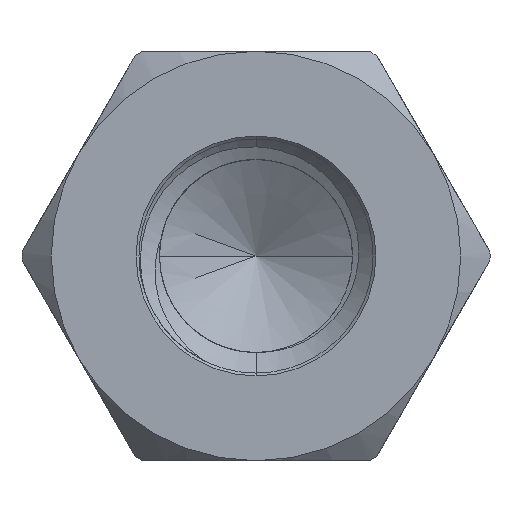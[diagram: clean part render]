
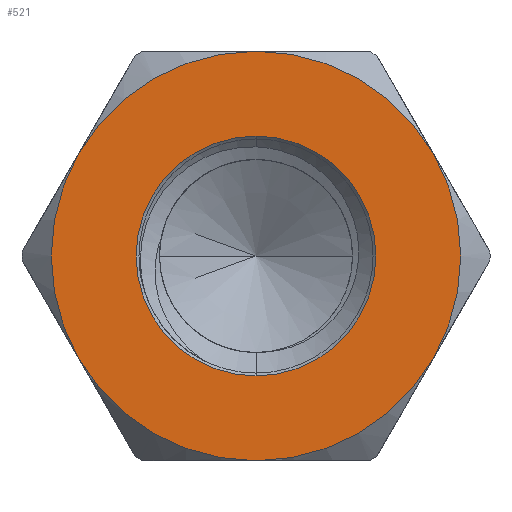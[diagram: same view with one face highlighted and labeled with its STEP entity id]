
A CAD part, front view. The second image highlights one B-rep face of the part: STEP entity #521.
In plain terms, the highlighted planar face has unit normal (0, -1, 0).
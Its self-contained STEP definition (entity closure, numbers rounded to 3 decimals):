
#111 = AXIS2_PLACEMENT_3D ( 'NONE', #9389, #473, #6172 ) ;
#473 = DIRECTION ( 'NONE',  ( 0., 1., 0. ) ) ;
#521 = ADVANCED_FACE ( 'NONE', ( #1487, #3065 ), #2100, .F. ) ;
#582 = CIRCLE ( 'NONE', #9037, 3.5 ) ;
#659 = AXIS2_PLACEMENT_3D ( 'NONE', #8401, #10103, #3592 ) ;
#803 = DIRECTION ( 'NONE',  ( 0., -1., 0. ) ) ;
#828 = EDGE_CURVE ( 'NONE', #10234, #7084, #6443, .T. ) ;
#890 = CARTESIAN_POINT ( 'NONE',  ( -3.031, 0., 1.75 ) ) ;
#1245 = ORIENTED_EDGE ( 'NONE', *, *, #7754, .T. ) ;
#1290 = EDGE_CURVE ( 'NONE', #7314, #9161, #582, .T. ) ;
#1358 = AXIS2_PLACEMENT_3D ( 'NONE', #10466, #5641, #4888 ) ;
#1461 = CIRCLE ( 'NONE', #3477, 3.5 ) ;
#1487 = FACE_BOUND ( 'NONE', #8051, .T. ) ;
#1554 = CIRCLE ( 'NONE', #659, 3.5 ) ;
#1584 = DIRECTION ( 'NONE',  ( 0., -1., 0. ) ) ;
#1656 = CARTESIAN_POINT ( 'NONE',  ( 0., 0., 0. ) ) ;
#1892 = ORIENTED_EDGE ( 'NONE', *, *, #6137, .F. ) ;
#2100 = PLANE ( 'NONE',  #111 ) ;
#2200 = DIRECTION ( 'NONE',  ( 0., 0., -1. ) ) ;
#2278 = AXIS2_PLACEMENT_3D ( 'NONE', #5630, #1584, #3181 ) ;
#2305 = DIRECTION ( 'NONE',  ( 0., -1., 0. ) ) ;
#2463 = CARTESIAN_POINT ( 'NONE',  ( 0., 0., 0. ) ) ;
#2777 = ORIENTED_EDGE ( 'NONE', *, *, #828, .T. ) ;
#2816 = CARTESIAN_POINT ( 'NONE',  ( 0., 0., 2.05 ) ) ;
#3065 = FACE_OUTER_BOUND ( 'NONE', #3506, .T. ) ;
#3086 = VERTEX_POINT ( 'NONE', #2816 ) ;
#3181 = DIRECTION ( 'NONE',  ( 0., 0., 1. ) ) ;
#3207 = AXIS2_PLACEMENT_3D ( 'NONE', #1656, #4904, #5732 ) ;
#3252 = CARTESIAN_POINT ( 'NONE',  ( 3.031, 0., -1.75 ) ) ;
#3439 = CARTESIAN_POINT ( 'NONE',  ( 0., 0., -2.05 ) ) ;
#3476 = AXIS2_PLACEMENT_3D ( 'NONE', #4877, #9687, #7239 ) ;
#3477 = AXIS2_PLACEMENT_3D ( 'NONE', #3889, #2305, #2200 ) ;
#3506 = EDGE_LOOP ( 'NONE', ( #4047, #1245, #5457, #2777, #4635, #7717 ) ) ;
#3592 = DIRECTION ( 'NONE',  ( 0., 0., 1. ) ) ;
#3826 = EDGE_CURVE ( 'NONE', #7084, #6592, #1461, .T. ) ;
#3889 = CARTESIAN_POINT ( 'NONE',  ( 0., 0., 0. ) ) ;
#4018 = DIRECTION ( 'NONE',  ( 0., 0., 1. ) ) ;
#4047 = ORIENTED_EDGE ( 'NONE', *, *, #1290, .T. ) ;
#4100 = DIRECTION ( 'NONE',  ( 0., -1., 0. ) ) ;
#4167 = DIRECTION ( 'NONE',  ( 0., 0., 1. ) ) ;
#4505 = CARTESIAN_POINT ( 'NONE',  ( 0., 0., -3.5 ) ) ;
#4635 = ORIENTED_EDGE ( 'NONE', *, *, #3826, .T. ) ;
#4656 = CIRCLE ( 'NONE', #3476, 3.5 ) ;
#4877 = CARTESIAN_POINT ( 'NONE',  ( 0., 0., 0. ) ) ;
#4888 = DIRECTION ( 'NONE',  ( 0., 0., -1. ) ) ;
#4904 = DIRECTION ( 'NONE',  ( 0., -1., 0. ) ) ;
#5016 = EDGE_CURVE ( 'NONE', #6592, #7314, #4656, .T. ) ;
#5220 = CARTESIAN_POINT ( 'NONE',  ( 0., 0., 3.5 ) ) ;
#5259 = CIRCLE ( 'NONE', #10040, 3.5 ) ;
#5457 = ORIENTED_EDGE ( 'NONE', *, *, #8192, .T. ) ;
#5622 = CARTESIAN_POINT ( 'NONE',  ( 0., 0., 0. ) ) ;
#5630 = CARTESIAN_POINT ( 'NONE',  ( 0., 0., 0. ) ) ;
#5641 = DIRECTION ( 'NONE',  ( 0., -1., 0. ) ) ;
#5732 = DIRECTION ( 'NONE',  ( 0., 0., -1. ) ) ;
#6137 = EDGE_CURVE ( 'NONE', #3086, #6258, #8927, .T. ) ;
#6172 = DIRECTION ( 'NONE',  ( 0., 0., 1. ) ) ;
#6258 = VERTEX_POINT ( 'NONE', #3439 ) ;
#6443 = CIRCLE ( 'NONE', #2278, 3.5 ) ;
#6498 = CIRCLE ( 'NONE', #1358, 2.05 ) ;
#6584 = VERTEX_POINT ( 'NONE', #890 ) ;
#6592 = VERTEX_POINT ( 'NONE', #3252 ) ;
#7084 = VERTEX_POINT ( 'NONE', #4505 ) ;
#7239 = DIRECTION ( 'NONE',  ( 0., 0., 1. ) ) ;
#7314 = VERTEX_POINT ( 'NONE', #8180 ) ;
#7717 = ORIENTED_EDGE ( 'NONE', *, *, #5016, .T. ) ;
#7754 = EDGE_CURVE ( 'NONE', #9161, #6584, #5259, .T. ) ;
#8051 = EDGE_LOOP ( 'NONE', ( #10529, #1892 ) ) ;
#8180 = CARTESIAN_POINT ( 'NONE',  ( 3.031, 0., 1.75 ) ) ;
#8192 = EDGE_CURVE ( 'NONE', #6584, #10234, #1554, .T. ) ;
#8401 = CARTESIAN_POINT ( 'NONE',  ( 0., 0., 0. ) ) ;
#8927 = CIRCLE ( 'NONE', #3207, 2.05 ) ;
#9037 = AXIS2_PLACEMENT_3D ( 'NONE', #5622, #803, #4018 ) ;
#9161 = VERTEX_POINT ( 'NONE', #5220 ) ;
#9168 = EDGE_CURVE ( 'NONE', #6258, #3086, #6498, .T. ) ;
#9389 = CARTESIAN_POINT ( 'NONE',  ( 0., 0., 0. ) ) ;
#9687 = DIRECTION ( 'NONE',  ( 0., -1., 0. ) ) ;
#10040 = AXIS2_PLACEMENT_3D ( 'NONE', #2463, #4100, #4167 ) ;
#10103 = DIRECTION ( 'NONE',  ( 0., -1., 0. ) ) ;
#10234 = VERTEX_POINT ( 'NONE', #10239 ) ;
#10239 = CARTESIAN_POINT ( 'NONE',  ( -3.031, 0., -1.75 ) ) ;
#10466 = CARTESIAN_POINT ( 'NONE',  ( 0., 0., 0. ) ) ;
#10529 = ORIENTED_EDGE ( 'NONE', *, *, #9168, .F. ) ;
